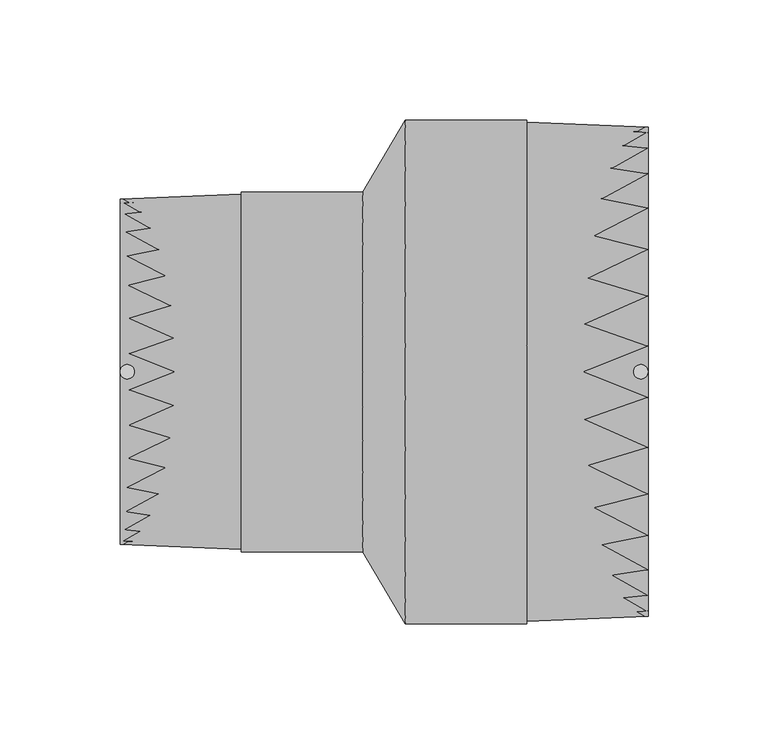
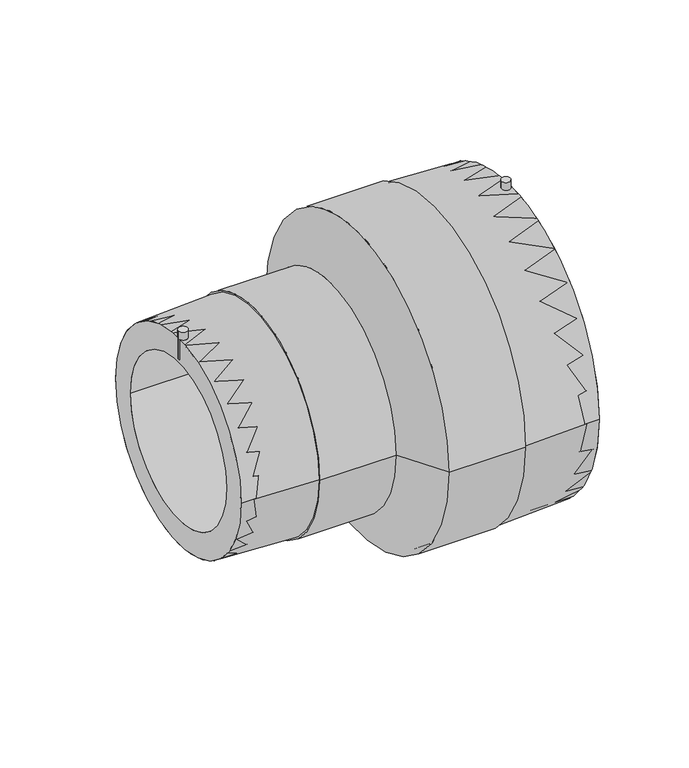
"""IFC4 building model written with IfcOpenShell, lengths in millimetres: pipe fitting geometry, EGB_VASEN_ PPR_Manguito reductor electrosoldable WXRD110 : Manguito reductor electrosoldable WXRD110."""

from ifc_helpers import new_model, si_unit, point, frame, frame_2d, origin, origin_2d, place, context, project, spatial, polyline, circle_curve, trimmed, segment, composite_curve, outline, extrude, source, transform, mapped, element, save
from ifc_brep_helpers import plane_surface, cylinder_surface, revolved_surface, advanced_brep


def pipe_fitting_cddfcaf2(model_context):
    return source(origin(), model_context, "Body", "SolidModel", [
        extrude(outline(composite_curve([segment(trimmed(circle_curve(frame_2d((107.0, 0.0)), 3.0), [point((104.0, 0.0))], [point((110.0, 0.0))], False, "CARTESIAN"), True, "CONTINUOUS"), segment(trimmed(circle_curve(frame_2d((107.0, 0.0)), 3.0), [point((110.0, 0.0))], [point((104.0, 0.0))], False, "CARTESIAN"), True, "CONTINUOUS")], self_intersect=False)), frame((0.0, 0.0, 82.0), z_axis=(0.0, 0.0, 1.0), x_axis=(1.0, 0.0, 0.0)), (0.0, 0.0, 1.0), 25.0),
        extrude(outline(composite_curve([segment(trimmed(circle_curve(frame_2d((-107.0, 0.0)), 3.0), [point((-110.0, 0.0))], [point((-104.0, 0.0))], False, "CARTESIAN"), True, "CONTINUOUS"), segment(trimmed(circle_curve(frame_2d((-107.0, 0.0)), 3.0), [point((-104.0, 0.0))], [point((-110.0, 0.0))], False, "CARTESIAN"), True, "CONTINUOUS")], self_intersect=False)), frame((0.0, 0.0, 57.0), z_axis=(0.0, 0.0, 1.0), x_axis=(1.0, 0.0, 0.0)), (0.0, 0.0, 1.0), 20.0),
        extrude(outline(composite_curve([segment(trimmed(circle_curve(origin_2d(), 102.0), [point((-102.0, 0.0))], [point((102.0, 0.0))], False, "CARTESIAN"), True, "CONTINUOUS"), segment(trimmed(circle_curve(origin_2d(), 102.0), [point((102.0, 0.0))], [point((-102.0, 0.0))], False, "CARTESIAN"), True, "CONTINUOUS")], self_intersect=False), holes=[composite_curve([segment(trimmed(circle_curve(origin_2d(), 80.0), [point((-80.0, 0.0))], [point((80.0, 0.0))], True, "CARTESIAN"), True, "CONTINUOUS"), segment(trimmed(circle_curve(origin_2d(), 80.0), [point((80.0, 0.0))], [point((-80.0, 0.0))], True, "CARTESIAN"), True, "CONTINUOUS")], self_intersect=False)]), frame((8.8, 0.0, 0.0), z_axis=(1.0, 0.0, 0.0), x_axis=(0.0, 1.0, 0.0)), (0.0, 0.0, 1.0), 101.2),
        extrude(outline(composite_curve([segment(trimmed(circle_curve(origin_2d(), 72.0), [point((-72.0, 0.0))], [point((72.0, 0.0))], False, "CARTESIAN"), True, "CONTINUOUS"), segment(trimmed(circle_curve(origin_2d(), 72.0), [point((72.0, 0.0))], [point((-72.0, 0.0))], False, "CARTESIAN"), True, "CONTINUOUS")], self_intersect=False), holes=[composite_curve([segment(trimmed(circle_curve(origin_2d(), 55.0), [point((-55.0, 0.0))], [point((55.0, 0.0))], True, "CARTESIAN"), True, "CONTINUOUS"), segment(trimmed(circle_curve(origin_2d(), 55.0), [point((55.0, 0.0))], [point((-55.0, 0.0))], True, "CARTESIAN"), True, "CONTINUOUS")], self_intersect=False)]), frame((-110.0, 0.0, 0.0), z_axis=(1.0, 0.0, 0.0), x_axis=(0.0, 1.0, 0.0)), (0.0, 0.0, 1.0), 101.2),
        advanced_brep(
        [(8.8, -102.0, 0.0), (8.8, 102.0, 0.0), (-8.8, -72.0, 0.0), (-8.8, 72.0, 0.0)],
        [
            (0, 1, circle_curve(frame((8.8, 0.0, 0.0), z_axis=(1.0, 0.0, 0.0), x_axis=(0.0, -1.0, 0.0)), 102.0)),
            (1, 0, circle_curve(frame((8.8, 0.0, 0.0), z_axis=(1.0, 0.0, 0.0), x_axis=(0.0, 1.0, 0.0)), 102.0)),
            (2, 3, circle_curve(frame((-8.8, 0.0, 0.0), z_axis=(-1.0, 0.0, 0.0), x_axis=(0.0, 1.0, 0.0)), 72.0)),
            (3, 2, circle_curve(frame((-8.8, 0.0, 0.0), z_axis=(-1.0, 0.0, 0.0), x_axis=(0.0, -1.0, 0.0)), 72.0)),
            (3, 1),
            (0, 2),
        ],
        [
            plane_surface(frame((8.8, 0.0, 0.0), z_axis=(1.0, 0.0, 0.0), x_axis=(0.0, 0.0, -1.0))),
            plane_surface(frame((-8.8, 0.0, 0.0), z_axis=(-1.0, 0.0, 0.0), x_axis=(0.0, 0.0, -1.0))),
            revolved_surface(polyline([(-8.800000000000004, 71.99999999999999, 0.0), (8.800000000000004, 102.0, 0.0)]), (-51.04, 0.0, 0.0), (1.0, 0.0, 0.0)),
            revolved_surface(polyline([(-8.800000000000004, -71.99999999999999, 0.0), (8.800000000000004, -102.0, 0.0)]), (-51.04, 0.0, 0.0), (1.0, 0.0, 0.0)),
        ],
        [
            (0, [[1, 2]]),
            (1, [[3, 4]]),
            (2, [[-4, 5, -1, 6]]),
            (3, [[-3, -6, -2, -5]]),
        ],
    ),
        advanced_brep(
        [(8.8, -102.0, 0.0), (8.8, 102.0, 0.0), (-8.8, 72.0, 0.0), (-8.8, -72.0, 0.0), (110.0, -102.0, 0.0), (110.0, 102.0, 0.0), (59.4, -104.0, 0.0), (59.4, 104.0, 0.0), (59.4, -105.0, 0.0), (59.4, 105.0, 0.0), (8.8, -105.0, 0.0), (8.8, 105.0, 0.0), (-8.8, -75.0, 0.0), (-8.8, 75.0, 0.0), (-59.4, -75.0, 0.0), (-59.4, 75.0, 0.0), (-59.4, -74.0, 0.0), (-59.4, 74.0, 0.0), (-110.0, -72.0, 0.0), (-110.0, 72.0, 0.0)],
        [
            (0, 1, circle_curve(frame((8.8, 0.0, 0.0), z_axis=(1.0, 0.0, 0.0), x_axis=(0.0, 1.0, 0.0)), 102.0)),
            (1, 2),
            (2, 3, circle_curve(frame((-8.8, 0.0, 0.0), z_axis=(-1.0, 0.0, 0.0), x_axis=(0.0, 1.0, 0.0)), 72.0)),
            (3, 0),
            (1, 0, circle_curve(frame((8.8, 0.0, 0.0), z_axis=(1.0, 0.0, 0.0), x_axis=(0.0, 1.0, 0.0)), 102.0)),
            (3, 2, circle_curve(frame((-8.8, 0.0, 0.0), z_axis=(-1.0, 0.0, 0.0), x_axis=(0.0, 1.0, 0.0)), 72.0)),
            (4, 5, circle_curve(frame((110.0, 0.0, 0.0), z_axis=(1.0, 0.0, 0.0), x_axis=(0.0, 1.0, 0.0)), 102.0)),
            (5, 1),
            (0, 4),
            (5, 4, circle_curve(frame((110.0, 0.0, 0.0), z_axis=(1.0, 0.0, 0.0), x_axis=(0.0, 1.0, 0.0)), 102.0)),
            (6, 7, circle_curve(frame((59.4, 0.0, 0.0), z_axis=(1.0, 0.0, 0.0), x_axis=(0.0, 1.0, 0.0)), 104.0)),
            (7, 5),
            (4, 6),
            (7, 6, circle_curve(frame((59.4, 0.0, 0.0), z_axis=(1.0, 0.0, 0.0), x_axis=(0.0, 1.0, 0.0)), 104.0)),
            (8, 9, circle_curve(frame((59.4, 0.0, 0.0), z_axis=(1.0, 0.0, 0.0), x_axis=(0.0, 1.0, 0.0)), 105.0)),
            (9, 7),
            (6, 8),
            (9, 8, circle_curve(frame((59.4, 0.0, 0.0), z_axis=(1.0, 0.0, 0.0), x_axis=(0.0, 1.0, 0.0)), 105.0)),
            (10, 11, circle_curve(frame((8.8, 0.0, 0.0), z_axis=(1.0, 0.0, 0.0), x_axis=(0.0, 1.0, 0.0)), 105.0)),
            (11, 9),
            (8, 10),
            (11, 10, circle_curve(frame((8.8, 0.0, 0.0), z_axis=(1.0, 0.0, 0.0), x_axis=(0.0, 1.0, 0.0)), 105.0)),
            (12, 13, circle_curve(frame((-8.8, 0.0, 0.0), z_axis=(1.0, 0.0, 0.0), x_axis=(0.0, 1.0, 0.0)), 75.0)),
            (13, 11),
            (10, 12),
            (13, 12, circle_curve(frame((-8.8, 0.0, 0.0), z_axis=(1.0, 0.0, 0.0), x_axis=(0.0, 1.0, 0.0)), 75.0)),
            (14, 15, circle_curve(frame((-59.4, 0.0, 0.0), z_axis=(1.0, 0.0, 0.0), x_axis=(0.0, 1.0, 0.0)), 75.0)),
            (15, 13),
            (12, 14),
            (15, 14, circle_curve(frame((-59.4, 0.0, 0.0), z_axis=(1.0, 0.0, 0.0), x_axis=(0.0, 1.0, 0.0)), 75.0)),
            (16, 17, circle_curve(frame((-59.4, 0.0, 0.0), z_axis=(1.0, 0.0, 0.0), x_axis=(0.0, 1.0, 0.0)), 74.0)),
            (17, 15),
            (14, 16),
            (17, 16, circle_curve(frame((-59.4, 0.0, 0.0), z_axis=(1.0, 0.0, 0.0), x_axis=(0.0, 1.0, 0.0)), 74.0)),
            (18, 19, circle_curve(frame((-110.0, 0.0, 0.0), z_axis=(1.0, 0.0, 0.0), x_axis=(0.0, 1.0, 0.0)), 72.0)),
            (19, 17),
            (16, 18),
            (19, 18, circle_curve(frame((-110.0, 0.0, 0.0), z_axis=(1.0, 0.0, 0.0), x_axis=(0.0, 1.0, 0.0)), 72.0)),
            (2, 19),
            (18, 3),
        ],
        [
            revolved_surface(polyline([(-8.8, 72.0, 0.0), (8.8, 102.0, 0.0)]), (-145.0, 0.0, 0.0), (-1.0, 0.0, 0.0)),
            revolved_surface(polyline([(8.800000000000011, 102.0, 0.0), (110.0, 102.0, 0.0)]), (-145.0, 0.0, 0.0), (-1.0, 0.0, 0.0)),
            revolved_surface(polyline([(110.0, 102.0, 0.0), (59.4, 104.0, 0.0)]), (-145.0, 0.0, 0.0), (-1.0, 0.0, 0.0)),
            plane_surface(frame((59.4, 0.0, 0.0), z_axis=(1.0, 0.0, 0.0), x_axis=(0.0, 1.0, 0.0))),
            cylinder_surface(frame((-145.0, 0.0, 0.0), z_axis=(-1.0, 0.0, 0.0), x_axis=(0.0, 1.0, 0.0)), 105.0),
            revolved_surface(polyline([(8.8, 105.0, 0.0), (-8.8, 75.0, 0.0)]), (-145.0, 0.0, 0.0), (-1.0, 0.0, 0.0)),
            cylinder_surface(frame((-145.0, 0.0, 0.0), z_axis=(-1.0, 0.0, 0.0), x_axis=(0.0, 1.0, 0.0)), 75.0),
            plane_surface(frame((-59.4, 0.0, 0.0), z_axis=(-1.0, 0.0, 0.0), x_axis=(0.0, 1.0, 0.0))),
            revolved_surface(polyline([(-59.4, 74.0, 0.0), (-110.0, 72.0, 0.0)]), (-145.0, 0.0, 0.0), (-1.0, 0.0, 0.0)),
            revolved_surface(polyline([(-110.0, 72.0, 0.0), (-8.800000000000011, 72.0, 0.0)]), (-145.0, 0.0, 0.0), (-1.0, 0.0, 0.0)),
        ],
        [
            (0, [[1, 2, 3, 4]]),
            (0, [[5, -4, 6, -2]]),
            (1, [[7, 8, -1, 9]]),
            (1, [[10, -9, -5, -8]]),
            (2, [[11, 12, -7, 13]]),
            (2, [[14, -13, -10, -12]]),
            (3, [[15, 16, -11, 17]]),
            (3, [[18, -17, -14, -16]]),
            (4, [[19, 20, -15, 21]]),
            (4, [[22, -21, -18, -20]]),
            (5, [[23, 24, -19, 25]]),
            (5, [[26, -25, -22, -24]]),
            (6, [[27, 28, -23, 29]]),
            (6, [[30, -29, -26, -28]]),
            (7, [[31, 32, -27, 33]]),
            (7, [[34, -33, -30, -32]]),
            (8, [[35, 36, -31, 37]]),
            (8, [[38, -37, -34, -36]]),
            (9, [[-3, 39, -35, 40]]),
            (9, [[-6, -40, -38, -39]]),
        ],
    ),
    ])


if __name__ == "__main__":
    model = new_model("IFC4")
    model_context = context("Model", 3, world=origin())
    ifc_project = project(units=[si_unit("LENGTHUNIT", "METRE", prefix="MILLI")], contexts=[model_context])
    site = spatial("IfcSite", under=ifc_project)
    building = spatial("IfcBuilding", under=site)
    placement = place(None, origin())
    pipe_fitting_shape = pipe_fitting_cddfcaf2(model_context)
    element("IfcPipeFitting", 1, ObjectType="EGB_VASEN_ PPR_Manguito reductor electrosoldable WXRD110 : Manguito reductor electrosoldable WXRD110", at=placement, inside=building, context=model_context, shape_type="MappedRepresentation", body=[
        mapped(pipe_fitting_shape, transform((0.0, 0.0, 0.0), x_axis=(1.0, 0.0, 0.0), y_axis=(0.0, 1.0, 0.0), z_axis=(0.0, 0.0, 1.0))),
    ])
    save(model, "model.ifc")
